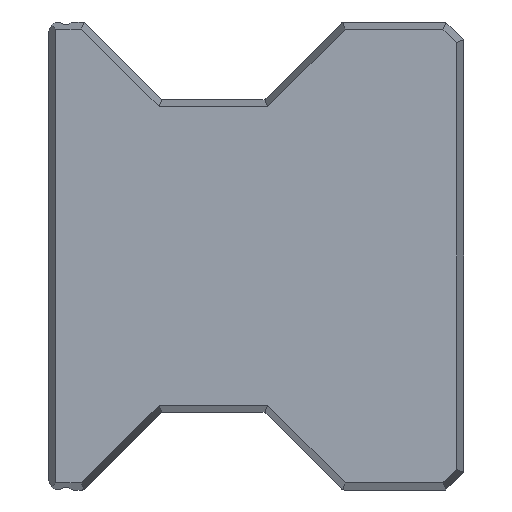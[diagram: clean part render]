
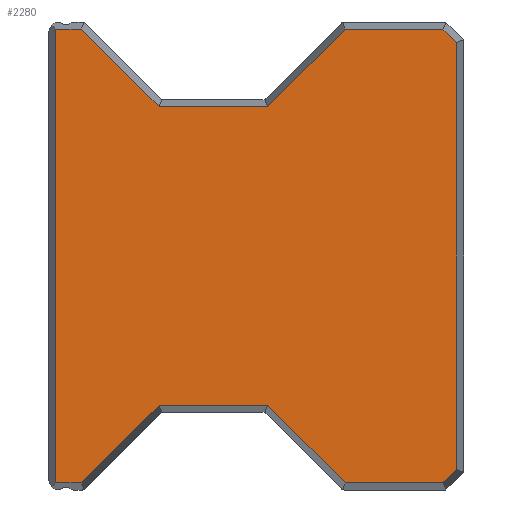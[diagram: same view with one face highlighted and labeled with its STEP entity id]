
A CAD part, left-side view. The second image highlights one B-rep face of the part: STEP entity #2280.
In plain terms, the highlighted planar face has unit normal (-1, 0, 0).
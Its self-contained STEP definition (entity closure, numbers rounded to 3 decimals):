
#428=ORIENTED_EDGE('',*,*,#978,.T.);
#429=ORIENTED_EDGE('',*,*,#885,.T.);
#430=ORIENTED_EDGE('',*,*,#979,.T.);
#431=ORIENTED_EDGE('',*,*,#980,.T.);
#432=ORIENTED_EDGE('',*,*,#873,.T.);
#433=ORIENTED_EDGE('',*,*,#864,.T.);
#434=ORIENTED_EDGE('',*,*,#981,.T.);
#435=ORIENTED_EDGE('',*,*,#858,.T.);
#436=ORIENTED_EDGE('',*,*,#982,.T.);
#437=ORIENTED_EDGE('',*,*,#983,.T.);
#438=ORIENTED_EDGE('',*,*,#984,.T.);
#439=ORIENTED_EDGE('',*,*,#985,.T.);
#440=ORIENTED_EDGE('',*,*,#877,.T.);
#441=ORIENTED_EDGE('',*,*,#882,.T.);
#858=EDGE_CURVE('',#1146,#1145,#1363,.T.);
#864=EDGE_CURVE('',#1151,#1150,#1368,.T.);
#873=EDGE_CURVE('',#1158,#1151,#1373,.T.);
#877=EDGE_CURVE('',#1161,#1160,#1376,.T.);
#882=EDGE_CURVE('',#1160,#1163,#1380,.T.);
#885=EDGE_CURVE('',#1166,#1165,#1382,.T.);
#978=EDGE_CURVE('',#1163,#1166,#1432,.T.);
#979=EDGE_CURVE('',#1165,#1242,#1433,.T.);
#980=EDGE_CURVE('',#1242,#1158,#1434,.T.);
#981=EDGE_CURVE('',#1150,#1146,#1435,.T.);
#982=EDGE_CURVE('',#1145,#1243,#1436,.T.);
#983=EDGE_CURVE('',#1243,#1244,#1437,.T.);
#984=EDGE_CURVE('',#1244,#1245,#1438,.T.);
#985=EDGE_CURVE('',#1245,#1161,#1439,.T.);
#1145=VERTEX_POINT('',#3551);
#1146=VERTEX_POINT('',#3553);
#1150=VERTEX_POINT('',#3563);
#1151=VERTEX_POINT('',#3565);
#1158=VERTEX_POINT('',#3582);
#1160=VERTEX_POINT('',#3588);
#1161=VERTEX_POINT('',#3590);
#1163=VERTEX_POINT('',#3597);
#1165=VERTEX_POINT('',#3603);
#1166=VERTEX_POINT('',#3605);
#1242=VERTEX_POINT('',#3788);
#1243=VERTEX_POINT('',#3792);
#1244=VERTEX_POINT('',#3794);
#1245=VERTEX_POINT('',#3796);
#1363=LINE('',#3552,#1513);
#1368=LINE('',#3564,#1518);
#1373=LINE('',#3581,#1523);
#1376=LINE('',#3589,#1526);
#1380=LINE('',#3598,#1530);
#1382=LINE('',#3604,#1532);
#1432=LINE('',#3786,#1582);
#1433=LINE('',#3787,#1583);
#1434=LINE('',#3789,#1584);
#1435=LINE('',#3790,#1585);
#1436=LINE('',#3791,#1586);
#1437=LINE('',#3793,#1587);
#1438=LINE('',#3795,#1588);
#1439=LINE('',#3797,#1589);
#1513=VECTOR('',#2782,1000.);
#1518=VECTOR('',#2791,1000.);
#1523=VECTOR('',#2806,1000.);
#1526=VECTOR('',#2813,1000.);
#1530=VECTOR('',#2821,1000.);
#1532=VECTOR('',#2827,1000.);
#1582=VECTOR('',#2989,1000.);
#1583=VECTOR('',#2990,1000.);
#1584=VECTOR('',#2991,1000.);
#1585=VECTOR('',#2992,1000.);
#1586=VECTOR('',#2993,1000.);
#1587=VECTOR('',#2994,1000.);
#1588=VECTOR('',#2995,1000.);
#1589=VECTOR('',#2996,1000.);
#1687=EDGE_LOOP('',(#428,#429,#430,#431,#432,#433,#434,#435,#436,#437,#438,
#439,#440,#441));
#1963=FACE_BOUND('',#1687,.T.);
#2205=PLANE('',#2504);
#2280=ADVANCED_FACE('',(#1963),#2205,.F.);
#2504=AXIS2_PLACEMENT_3D('',#3785,#2987,#2988);
#2782=DIRECTION('',(0.,-0.707,-0.707));
#2791=DIRECTION('',(0.,-0.707,0.707));
#2806=DIRECTION('',(0.,-1.,0.));
#2813=DIRECTION('',(0.,1.,0.));
#2821=DIRECTION('',(0.,0.707,-0.707));
#2827=DIRECTION('',(0.,0.707,0.707));
#2987=DIRECTION('',(1.,0.,0.));
#2988=DIRECTION('',(0.,0.,-1.));
#2989=DIRECTION('',(0.,1.,0.));
#2990=DIRECTION('',(0.,1.,0.));
#2991=DIRECTION('',(0.,0.,-1.));
#2992=DIRECTION('',(0.,-1.,0.));
#2993=DIRECTION('',(0.,-1.,0.));
#2994=DIRECTION('',(0.,-0.707,0.707));
#2995=DIRECTION('',(0.,0.,1.));
#2996=DIRECTION('',(0.,0.707,0.707));
#3551=CARTESIAN_POINT('',(0.,13.385,-25.707));
#3552=CARTESIAN_POINT('',(0.,19.546,-19.546));
#3553=CARTESIAN_POINT('',(0.,22.185,-16.907));
#3563=CARTESIAN_POINT('',(0.,34.479,-16.907));
#3564=CARTESIAN_POINT('',(0.,8.786,8.786));
#3565=CARTESIAN_POINT('',(0.,43.279,-25.707));
#3581=CARTESIAN_POINT('',(0.,0.,-25.707));
#3582=CARTESIAN_POINT('',(0.,46.207,-25.707));
#3588=CARTESIAN_POINT('',(0.,13.385,25.707));
#3589=CARTESIAN_POINT('',(0.,0.,25.707));
#3590=CARTESIAN_POINT('',(0.,2.329,25.707));
#3597=CARTESIAN_POINT('',(0.,22.185,16.907));
#3598=CARTESIAN_POINT('',(0.,19.546,19.546));
#3603=CARTESIAN_POINT('',(0.,43.279,25.707));
#3604=CARTESIAN_POINT('',(0.,8.786,-8.786));
#3605=CARTESIAN_POINT('',(0.,34.479,16.907));
#3785=CARTESIAN_POINT('',(0.,0.,0.));
#3786=CARTESIAN_POINT('',(0.,0.,16.907));
#3787=CARTESIAN_POINT('',(0.,0.,25.707));
#3788=CARTESIAN_POINT('',(0.,46.207,25.707));
#3789=CARTESIAN_POINT('',(0.,46.207,0.));
#3790=CARTESIAN_POINT('',(0.,0.,-16.907));
#3791=CARTESIAN_POINT('',(0.,0.,-25.707));
#3792=CARTESIAN_POINT('',(0.,2.329,-25.707));
#3793=CARTESIAN_POINT('',(0.,-11.689,-11.689));
#3794=CARTESIAN_POINT('',(0.,0.793,-24.171));
#3795=CARTESIAN_POINT('',(0.,0.793,0.));
#3796=CARTESIAN_POINT('',(0.,0.793,24.171));
#3797=CARTESIAN_POINT('',(0.,-11.689,11.689));
